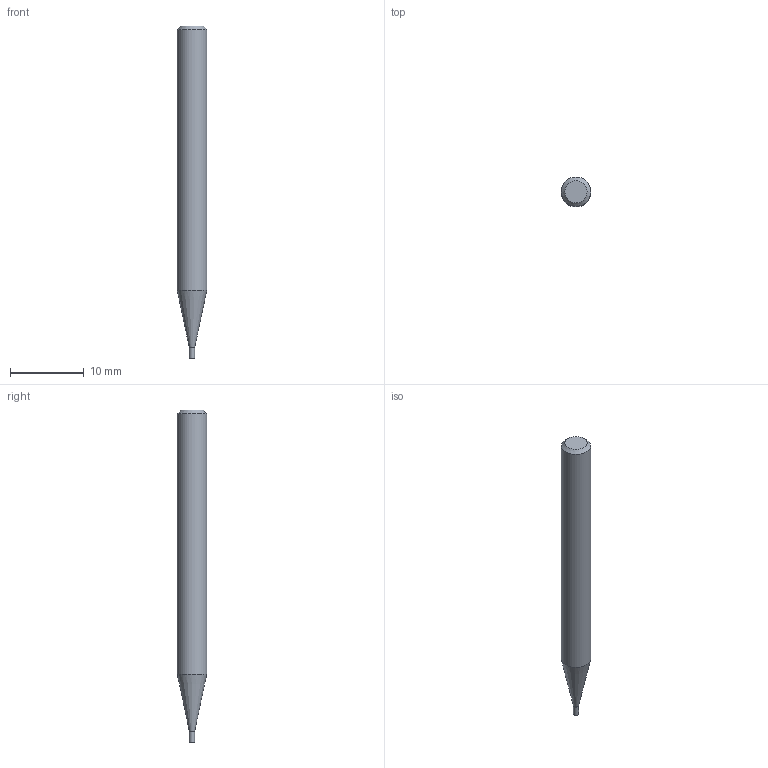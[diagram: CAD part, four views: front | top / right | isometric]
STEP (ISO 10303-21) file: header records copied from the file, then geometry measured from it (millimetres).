
FILE_DESCRIPTION((''),'2;1');
FILE_NAME('C:\Users\nsx150\AppData\Local\Temp\Mastercam 2021\E36A1X9CCL\TEMP.step','2023-04-21T15:12:08',(''),(''),'STEP Write','Mastercam 2021 ... CNC Software, Inc.','');
FILE_SCHEMA(('AUTOMOTIVE_DESIGN'));
Length unit declared in the file: millimetre
Products named in the file (1): None
Bounding box: 4 x 4 x 45 mm (x, y, z)
Volume: 488.6 mm3; surface area: 521.7 mm2
Topology: 2 solids, 2 shells, 8 faces, 10 edges, 6 vertices
Faces by surface type: plane 4, cylinder 2, cone 2
Full cylindrical faces by diameter (mm): 0.7 x1, 4 x1
Entity records: 190 total; most frequent: DIRECTION 32, CARTESIAN_POINT 22, AXIS2_PLACEMENT_3D 16, ORIENTED_EDGE 12, EDGE_LOOP 12, STYLED_ITEM 11, ADVANCED_FACE 8, VERTEX_POINT 6
